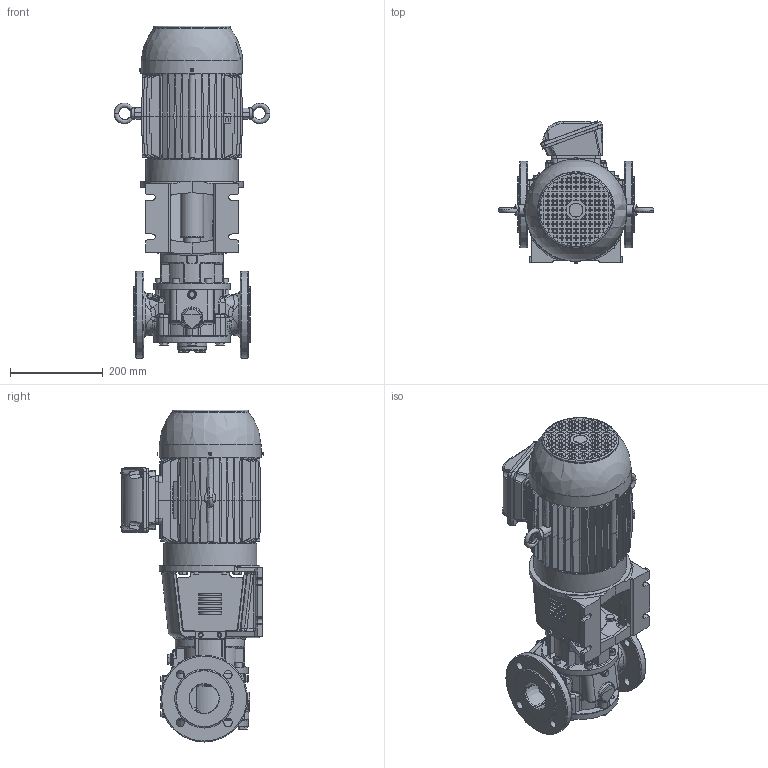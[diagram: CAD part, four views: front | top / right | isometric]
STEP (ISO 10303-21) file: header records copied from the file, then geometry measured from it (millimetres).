
FILE_DESCRIPTION(/* description */ (''),/* implementation_level */ '2;1');
FILE_NAME(/* name */ 'C:\V\JPP\Designs\GEAR PUMPS\PRODUCT ENGINEERING\EUROPE\TG BLOC\TG BLOC_23-65_R5_O_NRV-_112M-STEP.stp',/* time_stamp */ '2021-03-18T14:47:00+01:00',/* author */ ('A77THR'),/* organization */ (''),/* preprocessor_version */ 'ST-DEVELOPER v18.1',/* originating_system */ 'Autodesk Inventor 2020',/* authorisation */ '');
FILE_SCHEMA (('AUTOMOTIVE_DESIGN { 1 0 10303 214 3 1 1 }'));
Length unit declared in the file: millimetre
Products named in the file (1): TG BLOC_23-65_R5_O_NRV-_112M
Bounding box: 335.99 x 305.97 x 715.1 mm (x, y, z)
Volume: 18079099.5 mm3; surface area: 1155693.6 mm2
Topology: 1 solids, 1 shells, 4403 faces, 11270 edges, 7110 vertices
Faces by surface type: plane 2431, bspline 870, cylinder 604, cone 330, torus 113, sphere 55
Full cylindrical faces by diameter (mm): 4 x1, 4.5 x4, 4.917 x4, 5 x3, 5.459 x14, 6 x17, 6.647 x1, 7 x14, 8.376 x5, 8.5 x2, 8.7 x14, 9.188 x4, 10 x12, 10.5 x1, 11.445 x2, 11.5 x4, 12 x4, 15.011 x3, 15.4 x14, 16 x6, 17.9 x3, 18 x11, 19 x3, 21.939 x1, 25.9 x1, 26 x1, 27.6 x1, 28 x1, 29.4 x1, 30 x2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
Entity records: 186321 total; most frequent: CARTESIAN_POINT 82253, ORIENTED_EDGE 22332, DIRECTION 18288, EDGE_CURVE 11166, VERTEX_POINT 7110, AXIS2_PLACEMENT_3D 6240, LINE 5808, VECTOR 5808
